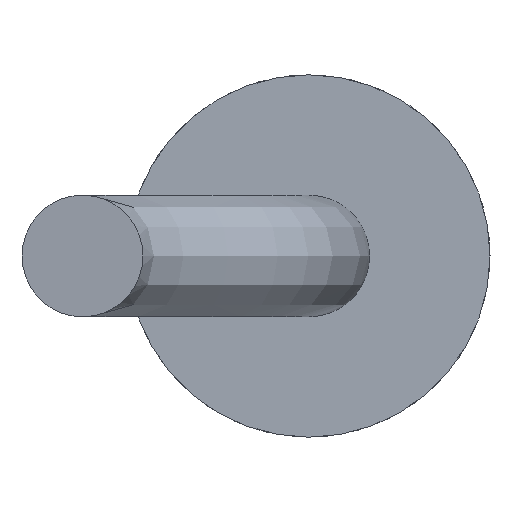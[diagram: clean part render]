
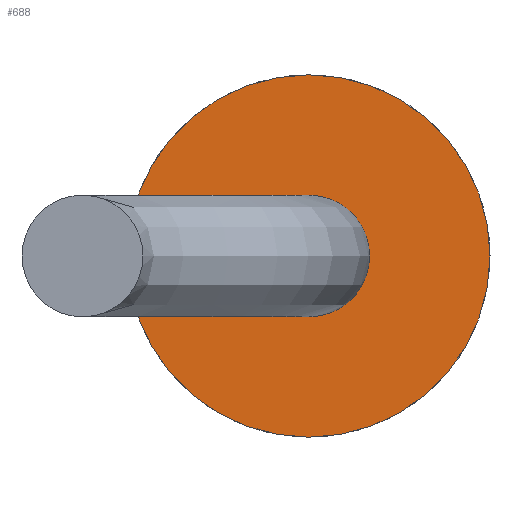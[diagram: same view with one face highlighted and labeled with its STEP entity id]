
A CAD part, left-side view. The second image highlights one B-rep face of the part: STEP entity #688.
In plain terms, the highlighted planar face has unit normal (-1, 0, 0).
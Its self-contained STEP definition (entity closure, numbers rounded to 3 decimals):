
#208 = CARTESIAN_POINT ( 'NONE',  ( 0., 0., 7. ) ) ;
#210 = CARTESIAN_POINT ( 'NONE',  ( 0., 0., 0. ) ) ;
#226 = CIRCLE ( 'NONE', #1259, 2.35 ) ;
#243 = FACE_OUTER_BOUND ( 'NONE', #579, .T. ) ;
#326 = DIRECTION ( 'NONE',  ( 0., 0., -1. ) ) ;
#363 = FACE_BOUND ( 'NONE', #394, .T. ) ;
#382 = EDGE_CURVE ( 'NONE', #1130, #440, #806, .T. ) ;
#394 = EDGE_LOOP ( 'NONE', ( #1577, #921 ) ) ;
#406 = EDGE_CURVE ( 'NONE', #440, #1130, #1054, .T. ) ;
#438 = DIRECTION ( 'NONE',  ( -1., 0., 0. ) ) ;
#440 = VERTEX_POINT ( 'NONE', #445 ) ;
#445 = CARTESIAN_POINT ( 'NONE',  ( 0., 0., -7. ) ) ;
#448 = EDGE_CURVE ( 'NONE', #836, #1114, #226, .T. ) ;
#515 = DIRECTION ( 'NONE',  ( -1., 0., 0. ) ) ;
#519 = AXIS2_PLACEMENT_3D ( 'NONE', #1546, #515, #999 ) ;
#579 = EDGE_LOOP ( 'NONE', ( #1421, #1288 ) ) ;
#613 = CARTESIAN_POINT ( 'NONE',  ( 0., 5.25, 0. ) ) ;
#664 = CARTESIAN_POINT ( 'NONE',  ( 0., 0., -2.35 ) ) ;
#688 = ADVANCED_FACE ( 'NONE', ( #363, #243 ), #1219, .T. ) ;
#693 = DIRECTION ( 'NONE',  ( 0., 0., 1. ) ) ;
#723 = DIRECTION ( 'NONE',  ( 0., 0., 1. ) ) ;
#806 = CIRCLE ( 'NONE', #1031, 7. ) ;
#829 = CIRCLE ( 'NONE', #519, 2.35 ) ;
#836 = VERTEX_POINT ( 'NONE', #664 ) ;
#921 = ORIENTED_EDGE ( 'NONE', *, *, #448, .F. ) ;
#926 = CARTESIAN_POINT ( 'NONE',  ( 0., 0., 0. ) ) ;
#930 = AXIS2_PLACEMENT_3D ( 'NONE', #613, #1354, #723 ) ;
#934 = CARTESIAN_POINT ( 'NONE',  ( 0., 0., 0. ) ) ;
#999 = DIRECTION ( 'NONE',  ( 0., 0., 1. ) ) ;
#1031 = AXIS2_PLACEMENT_3D ( 'NONE', #934, #1306, #326 ) ;
#1054 = CIRCLE ( 'NONE', #1363, 7. ) ;
#1114 = VERTEX_POINT ( 'NONE', #1291 ) ;
#1130 = VERTEX_POINT ( 'NONE', #208 ) ;
#1155 = EDGE_CURVE ( 'NONE', #1114, #836, #829, .T. ) ;
#1219 = PLANE ( 'NONE',  #930 ) ;
#1259 = AXIS2_PLACEMENT_3D ( 'NONE', #926, #438, #693 ) ;
#1288 = ORIENTED_EDGE ( 'NONE', *, *, #382, .F. ) ;
#1291 = CARTESIAN_POINT ( 'NONE',  ( 0., 0., 2.35 ) ) ;
#1306 = DIRECTION ( 'NONE',  ( 1., 0., 0. ) ) ;
#1354 = DIRECTION ( 'NONE',  ( -1., 0., 0. ) ) ;
#1363 = AXIS2_PLACEMENT_3D ( 'NONE', #210, #1554, #1419 ) ;
#1419 = DIRECTION ( 'NONE',  ( 0., 0., -1. ) ) ;
#1421 = ORIENTED_EDGE ( 'NONE', *, *, #406, .F. ) ;
#1546 = CARTESIAN_POINT ( 'NONE',  ( 0., 0., 0. ) ) ;
#1554 = DIRECTION ( 'NONE',  ( 1., 0., 0. ) ) ;
#1577 = ORIENTED_EDGE ( 'NONE', *, *, #1155, .F. ) ;
